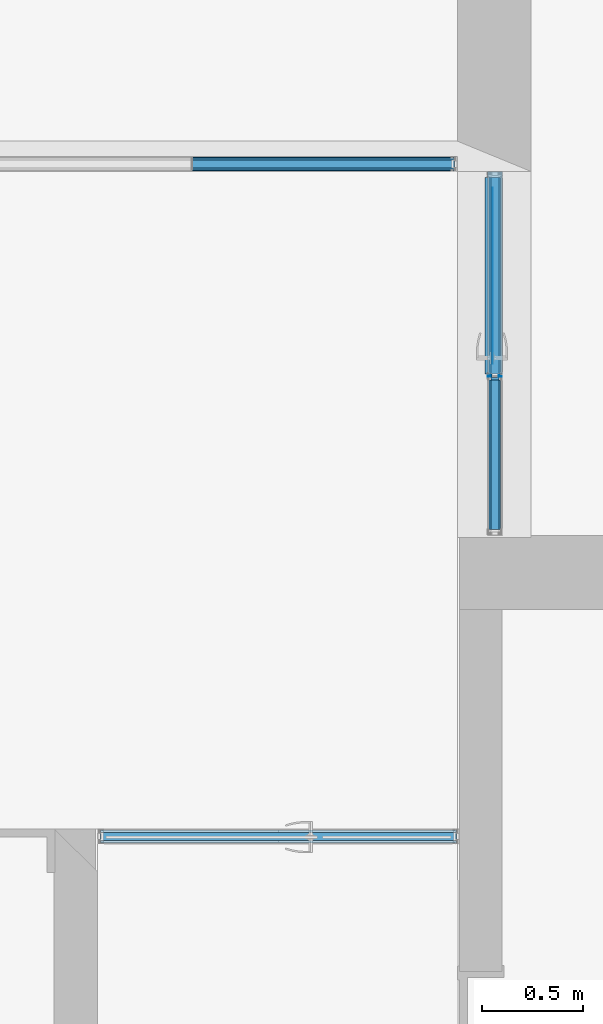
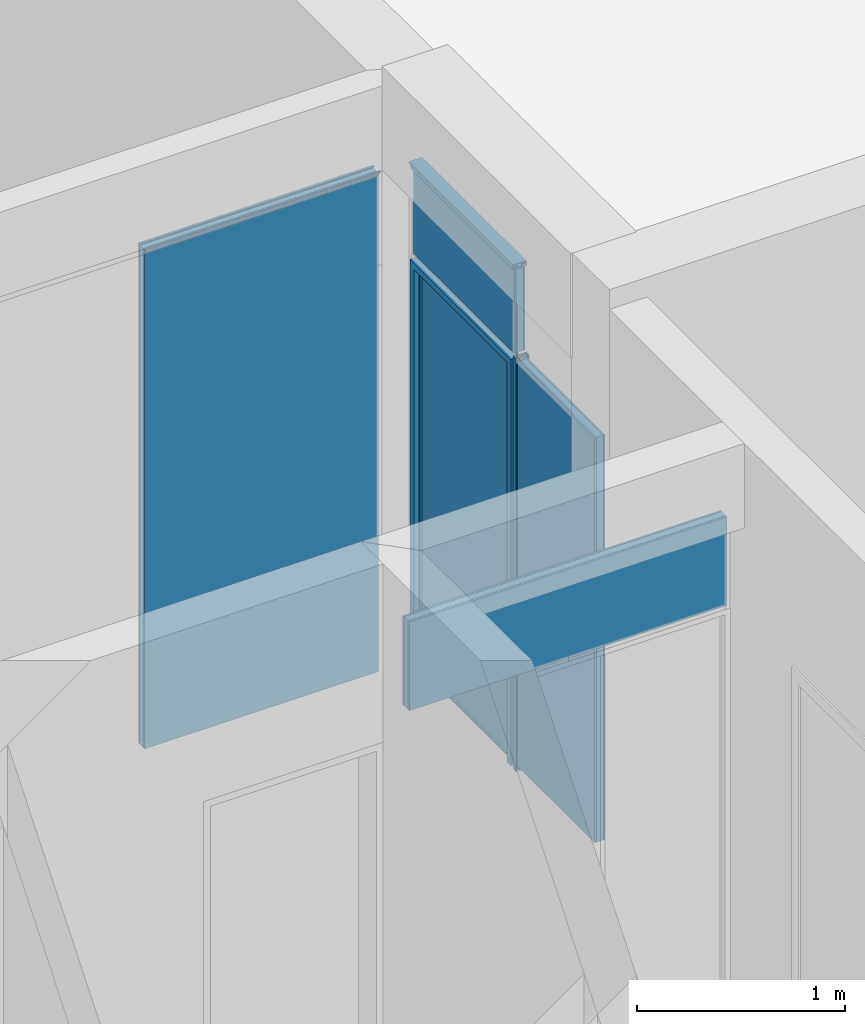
# One storey, part 61 of 89: 14 building element parts, 11 elements without a shape of their own.
"""IFC2X3 building model written with IfcOpenShell, lengths in millimetres."""

from ifc_helpers import new_model, entity, si_unit, converted_unit, derived_unit, money_unit, direction, frame, origin_with_axes, place, context, subcontext, project, spatial, open_shell, faceted_brep, surface_model, material, type_object, element, aggregate, save


model = new_model("IFC2X3")

# Units and contexts
model_context = context("Model", 3, precision=0.01, world=origin_with_axes(), true_north=direction((0.0, 1.0)))
body_context = subcontext(model_context, "Body", "Model", "MODEL_VIEW")
ifc_project = project(units=[si_unit("LENGTHUNIT", "METRE", prefix="MILLI"), si_unit("AREAUNIT", "SQUARE_METRE"), si_unit("VOLUMEUNIT", "CUBIC_METRE"), converted_unit("PLANEANGLEUNIT", "DEGREE", entity("IfcPlaneAngleMeasure", 0.0174532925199), si_unit("PLANEANGLEUNIT", "RADIAN"), dimensions=[0, 0, 0, 0, 0, 0, 0]), si_unit("SOLIDANGLEUNIT", "STERADIAN"), money_unit("EUR"), converted_unit("TIMEUNIT", "Year", entity("IfcTimeMeasure", 31556926.0), si_unit("TIMEUNIT", "SECOND"), dimensions=[0, 0, 1, 0, 0, 0, 0]), si_unit("MASSUNIT", "GRAM", prefix="KILO"), si_unit("THERMODYNAMICTEMPERATUREUNIT", "DEGREE_CELSIUS"), si_unit("LUMINOUSINTENSITYUNIT", "LUMEN"), si_unit("ENERGYUNIT", "JOULE", prefix="MEGA"), derived_unit("THERMALCONDUCTANCEUNIT", [(si_unit("POWERUNIT", "WATT"), 1), (si_unit("LENGTHUNIT", "METRE"), -1), (si_unit("THERMODYNAMICTEMPERATUREUNIT", "KELVIN"), -1)]), derived_unit("SPECIFICHEATCAPACITYUNIT", [(si_unit("ENERGYUNIT", "JOULE"), 1), (si_unit("MASSUNIT", "GRAM", prefix="KILO"), -1), (si_unit("THERMODYNAMICTEMPERATUREUNIT", "KELVIN"), -1)]), derived_unit("MASSDENSITYUNIT", [(si_unit("MASSUNIT", "GRAM", prefix="KILO"), 1), (si_unit("VOLUMEUNIT", "CUBIC_METRE"), -1)])], contexts=[model_context])

# Site, building, storey
site_placement = place(None, origin_with_axes())
site = spatial("IfcSite", under=ifc_project, at=site_placement, Name="Puškini 31, Narva", CompositionType="ELEMENT")
building_placement = place(site_placement, origin_with_axes())
building = spatial("IfcBuilding", under=site, at=building_placement, Name="Narva Riigigümnaasium", CompositionType="ELEMENT")
storey_placement = place(building_placement, frame((0.0, 0.0, -3300.0), z_axis=(0.0, 0.0, 1.0), x_axis=(1.0, 0.0, 0.0)))
storey = spatial("IfcBuildingStorey", under=building, at=storey_placement, Name="1.korrus -3.3", CompositionType="ELEMENT", Elevation=-3300.0)

# Curtain wall, door, building element parts, plates, members
curtain_wall_type = type_object("IfcCurtainWallType", Name="Curtain Wall Type", PredefinedType="NOTDEFINED")
curtain_wall_1_placement = place(storey_placement, frame((47675.0000001, 242632.20006, -3.78005973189e-05), z_axis=(0.0, 0.0, 1.0), x_axis=(1.0, 0.0, 0.0)))
curtain_wall_1 = element("IfcCurtainWall", 1, at=curtain_wall_1_placement, inside=storey, type_object=curtain_wall_type, Name="G-SKLF-10")
door_style = type_object("IfcDoorStyle", Name="955 x 2365 x 20", ConstructionType="NOTDEFINED", OperationType="NOTDEFINED", ParameterTakesPrecedence=False, Sizeable=False)
door_placement = place(curtain_wall_1_placement, frame((0.0, 921.799996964, 960.00001512), z_axis=(0.0, 0.0, 1.0), x_axis=(0.0, 1.0, 0.0)))
door = element("IfcDoor", 2, at=door_placement, type_object=door_style, Name="G-SKLF-10-U1", ObjectType="DOOR")
ifc_material_1 = material(Name="Alumiiniumprofiil")
building_element_part_1_placement = place(door_placement, origin_with_axes())
building_element_part_1 = element("IfcBuildingElementPart", 3, at=building_element_part_1_placement, material=ifc_material_1, Name="Alumiiniumprofiil", context=body_context, shape_type="Brep", body=[
    faceted_brep([(-594.00001575, -6.0, -940.000014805), (-594.00001575, -6.0, 1440.00002268), (-594.00001575, 8.0, 1440.00002268), (-594.00001575, 8.0, -940.000014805), (-548.00001575, -6.0, -940.000014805), (-548.00001575, -6.0, 1394.00002268), (-548.00001575, 8.0, 1394.00002268), (-548.00001575, 8.0, -940.000014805)], [[[0, 1, 2, 3]], [[0, 4, 5, 1]], [[1, 5, 6, 2]], [[3, 2, 6, 7]], [[4, 0, 3, 7]], [[5, 4, 7, 6]]]),
    faceted_brep([(375.999999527, -6.0, 1440.00002268), (329.999999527, -6.0, 1394.00002268), (329.999999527, 8.0, 1394.00002268), (375.999999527, 8.0, 1440.00002268), (-594.00001575, -6.0, 1440.00002268), (-548.00001575, -6.0, 1394.00002268), (-548.00001575, 8.0, 1394.00002268), (-594.00001575, 8.0, 1440.00002268)], [[[0, 1, 2, 3]], [[0, 4, 5, 1]], [[1, 5, 6, 2]], [[3, 2, 6, 7]], [[4, 0, 3, 7]], [[5, 4, 7, 6]]]),
    faceted_brep([(375.999999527, -6.0, -940.000014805), (329.999999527, -6.0, -940.000014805), (329.999999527, 8.0, -940.000014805), (375.999999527, 8.0, -940.000014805), (375.999999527, -6.0, 1440.00002268), (329.999999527, -6.0, 1394.00002268), (329.999999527, 8.0, 1394.00002268), (375.999999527, 8.0, 1440.00002268)], [[[0, 1, 2, 3]], [[0, 4, 5, 1]], [[1, 5, 6, 2]], [[3, 2, 6, 7]], [[4, 0, 3, 7]], [[5, 4, 7, 6]]]),
    faceted_brep([(-594.00001575, 8.0, -940.000014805), (-594.00001575, 8.0, 1440.00002268), (-594.00001575, 48.0, 1440.00002268), (-594.00001575, 48.0, -940.000014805), (-556.00001575, 8.0, -940.000014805), (-556.00001575, 8.0, 1402.00002268), (-556.00001575, 48.0, 1402.00002268), (-556.00001575, 48.0, -940.000014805)], [[[0, 1, 2, 3]], [[0, 4, 5, 1]], [[1, 5, 6, 2]], [[3, 2, 6, 7]], [[4, 0, 3, 7]], [[5, 4, 7, 6]]]),
    faceted_brep([(375.999999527, 8.0, 1440.00002268), (337.999999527, 8.0, 1402.00002268), (337.999999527, 48.0, 1402.00002268), (375.999999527, 48.0, 1440.00002268), (-594.00001575, 8.0, 1440.00002268), (-556.00001575, 8.0, 1402.00002268), (-556.00001575, 48.0, 1402.00002268), (-594.00001575, 48.0, 1440.00002268)], [[[0, 1, 2, 3]], [[0, 4, 5, 1]], [[1, 5, 6, 2]], [[3, 2, 6, 7]], [[4, 0, 3, 7]], [[5, 4, 7, 6]]]),
    faceted_brep([(375.999999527, 8.0, -940.000014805), (337.999999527, 8.0, -940.000014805), (337.999999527, 48.0, -940.000014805), (375.999999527, 48.0, -940.000014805), (375.999999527, 8.0, 1440.00002268), (337.999999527, 8.0, 1402.00002268), (337.999999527, 48.0, 1402.00002268), (375.999999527, 48.0, 1440.00002268)], [[[0, 1, 2, 3]], [[0, 4, 5, 1]], [[1, 5, 6, 2]], [[3, 2, 6, 7]], [[4, 0, 3, 7]], [[5, 4, 7, 6]]]),
    faceted_brep([(-594.00001575, -10.0, -940.000014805), (-594.00001575, -10.0, 1440.00002268), (-594.00001575, 10.0, 1440.00002268), (-594.00001575, 10.0, -940.000014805), (-578.999979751, -10.0, -940.000014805), (-578.999979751, -10.0, 1425.00002244), (-578.999979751, 10.0, 1425.00002244), (-578.999979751, 10.0, -940.000014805)], [[[0, 1, 2, 3]], [[0, 4, 5, 1]], [[1, 5, 6, 2]], [[3, 2, 6, 7]], [[4, 0, 3, 7]], [[5, 4, 7, 6]]]),
    faceted_brep([(-594.00001575, -10.0, 1440.00002268), (375.999999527, -10.0, 1440.00002268), (375.999999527, 10.0, 1440.00002268), (-594.00001575, 10.0, 1440.00002268), (-578.999979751, -10.0, 1425.00002244), (375.999999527, -10.0, 1425.00002244), (375.999999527, 10.0, 1425.00002244), (-578.999979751, 10.0, 1425.00002244)], [[[0, 1, 2, 3]], [[0, 4, 5, 1]], [[1, 5, 6, 2]], [[3, 2, 6, 7]], [[4, 0, 3, 7]], [[5, 4, 7, 6]]]),
    faceted_brep([(325.999999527, 8.0, -928.000014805), (325.999999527, 8.0, 1390.00002268), (325.999999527, 20.0, 1390.00002268), (325.999999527, 20.0, -928.000014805), (337.999999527, 8.0, -940.000014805), (337.999999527, 8.0, 1402.00002268), (337.999999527, 20.0, 1402.00002268), (337.999999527, 20.0, -940.000014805)], [[[0, 1, 2, 3]], [[0, 4, 5, 1]], [[1, 5, 6, 2]], [[3, 2, 6, 7]], [[4, 0, 3, 7]], [[5, 4, 7, 6]]]),
    faceted_brep([(-556.00001575, 8.0, -940.000014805), (-556.00001575, 8.0, 1402.00002268), (-556.00001575, 20.0, 1402.00002268), (-556.00001575, 20.0, -940.000014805), (-544.00001575, 8.0, -928.000014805), (-544.00001575, 8.0, 1390.00002268), (-544.00001575, 20.0, 1390.00002268), (-544.00001575, 20.0, -928.000014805)], [[[0, 1, 2, 3]], [[0, 4, 5, 1]], [[1, 5, 6, 2]], [[3, 2, 6, 7]], [[4, 0, 3, 7]], [[5, 4, 7, 6]]]),
    faceted_brep([(-556.00001575, 8.0, -940.000014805), (-544.00001575, 8.0, -928.000014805), (-544.00001575, 20.0, -928.000014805), (-556.00001575, 20.0, -940.000014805), (337.999999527, 8.0, -940.000014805), (325.999999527, 8.0, -928.000014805), (325.999999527, 20.0, -928.000014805), (337.999999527, 20.0, -940.000014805)], [[[0, 1, 2, 3]], [[0, 4, 5, 1]], [[1, 5, 6, 2]], [[3, 2, 6, 7]], [[4, 0, 3, 7]], [[5, 4, 7, 6]]]),
    faceted_brep([(337.999999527, 8.0, 1402.00002268), (325.999999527, 8.0, 1390.00002268), (325.999999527, 20.0, 1390.00002268), (337.999999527, 20.0, 1402.00002268), (-556.00001575, 8.0, 1402.00002268), (-544.00001575, 8.0, 1390.00002268), (-544.00001575, 20.0, 1390.00002268), (-556.00001575, 20.0, 1402.00002268)], [[[0, 1, 2, 3]], [[0, 4, 5, 1]], [[1, 5, 6, 2]], [[3, 2, 6, 7]], [[4, 0, 3, 7]], [[5, 4, 7, 6]]]),
])
ifc_material_2 = material(Name="VKR-05_Klaas")
building_element_part_2_placement = place(door_placement, origin_with_axes())
building_element_part_2 = element("IfcBuildingElementPart", 4, at=building_element_part_2_placement, material=ifc_material_2, Name="VKR-05_Klaas", context=body_context, shape_type="SurfaceModel", body=[
    surface_model("IfcShellBasedSurfaceModel", [(325.999999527, 10.0, -928.000014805), (325.999999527, 10.0, 1390.00002268), (-544.00001575, 10.0, 1390.00002268), (-544.00001575, 10.0, -928.000014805)], [open_shell([[[0, 1, 2, 3]]])]),
])
aggregate(door, [building_element_part_1, building_element_part_2])
plate_type_1 = type_object("IfcPlateType", Name="985 x 520 x 20", PredefinedType="CURTAIN_PANEL")
plate_1_placement = place(curtain_wall_1_placement, frame((0.0, 360.254540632, 2507.81820327), z_axis=(0.0, 0.0, 1.0), x_axis=(0.0, 1.0, 0.0)))
plate_1 = element("IfcPlate", 5, at=plate_1_placement, type_object=plate_type_1, Name="G-SKLF-10-klaas", ObjectType="CURTAIN_PANEL")
building_element_part_3_placement = place(plate_1_placement, origin_with_axes())
building_element_part_3 = element("IfcBuildingElementPart", 6, at=building_element_part_3_placement, material=ifc_material_2, Name="VKR-05_Klaas", context=body_context, shape_type="Brep", body=[
    faceted_brep([(-32.454552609, -29.0, 412.181763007), (937.54542951, -29.0, 412.181763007), (937.54542951, -20.0, 412.181763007), (-32.454552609, -20.0, 412.181763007), (-32.454552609, -29.0, -77.8181922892), (937.54542951, -29.0, -77.818138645), (937.54542951, -20.0, -77.818138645), (-32.454552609, -20.0, -77.8181922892)], [[[0, 1, 2, 3]], [[0, 4, 5, 1]], [[1, 5, 6, 2]], [[3, 2, 6, 7]], [[4, 0, 3, 7]], [[5, 4, 7, 6]]]),
    faceted_brep([(-32.454552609, 20.0, 412.181763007), (937.54542951, 20.0, 412.181763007), (937.54542951, 29.0, 412.181763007), (-32.454552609, 29.0, 412.181763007), (-32.454552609, 20.0, -77.8181922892), (937.54542951, 20.0, -77.818138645), (937.54542951, 29.0, -77.818138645), (-32.454552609, 29.0, -77.8181922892)], [[[0, 1, 2, 3]], [[0, 4, 5, 1]], [[1, 5, 6, 2]], [[3, 2, 6, 7]], [[4, 0, 3, 7]], [[5, 4, 7, 6]]]),
])
ifc_material_3 = material(Name="VKR-06_Õhkvahe")
building_element_part_4_placement = place(plate_1_placement, origin_with_axes())
building_element_part_4 = element("IfcBuildingElementPart", 7, at=building_element_part_4_placement, material=ifc_material_3, Name="VKR-06_Õhkvahe", context=body_context, shape_type="Brep", body=[
    faceted_brep([(-32.454552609, -20.0, 412.181763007), (937.54542951, -20.0, 412.181763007), (937.54542951, 20.0, 412.181763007), (-32.454552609, 20.0, 412.181763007), (-32.454552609, -20.0, -77.8181922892), (937.54542951, -20.0, -77.818138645), (937.54542951, 20.0, -77.818138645), (-32.454552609, 20.0, -77.8181922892)], [[[0, 1, 2, 3]], [[0, 4, 5, 1]], [[1, 5, 6, 2]], [[3, 2, 6, 7]], [[4, 0, 3, 7]], [[5, 4, 7, 6]]]),
])
aggregate(plate_1, [building_element_part_3, building_element_part_4])
plate_type_2 = type_object("IfcPlateType", Name="770 x 2400 x 20", PredefinedType="CURTAIN_PANEL")
plate_2_placement = place(curtain_wall_1_placement, frame((0.0, 53.9666644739, 1200.0000189), z_axis=(0.0, 0.0, 1.0), x_axis=(0.0, 1.0, 0.0)))
plate_2 = element("IfcPlate", 8, at=plate_2_placement, type_object=plate_type_2, Name="G-SKLF-10-klaas", ObjectType="CURTAIN_PANEL")
building_element_part_5_placement = place(plate_2_placement, origin_with_axes())
building_element_part_5 = element("IfcBuildingElementPart", 9, at=building_element_part_5_placement, material=ifc_material_2, Name="VKR-05_Klaas", context=body_context, shape_type="Brep", body=[
    faceted_brep([(-496.166643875, -29.0, 1200.0000189), (243.833296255, -29.0, 1200.0000189), (243.833296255, -20.0, 1200.0000189), (-496.166643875, -20.0, 1200.0000189), (-496.166643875, -29.0, -1169.99998266), (243.833332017, -29.0, -1169.99998266), (243.833332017, -20.0, -1169.99998266), (-496.166643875, -20.0, -1169.99998266)], [[[0, 1, 2, 3]], [[0, 4, 5, 1]], [[1, 5, 6, 2]], [[3, 2, 6, 7]], [[4, 0, 3, 7]], [[5, 4, 7, 6]]]),
    faceted_brep([(-496.166643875, 20.0, 1200.0000189), (243.833296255, 20.0, 1200.0000189), (243.833296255, 29.0, 1200.0000189), (-496.166643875, 29.0, 1200.0000189), (-496.166643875, 20.0, -1169.99998266), (243.833332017, 20.0, -1169.99998266), (243.833332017, 29.0, -1169.99998266), (-496.166643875, 29.0, -1169.99998266)], [[[0, 1, 2, 3]], [[0, 4, 5, 1]], [[1, 5, 6, 2]], [[3, 2, 6, 7]], [[4, 0, 3, 7]], [[5, 4, 7, 6]]]),
])
building_element_part_6_placement = place(plate_2_placement, origin_with_axes())
building_element_part_6 = element("IfcBuildingElementPart", 10, at=building_element_part_6_placement, material=ifc_material_3, Name="VKR-06_Õhkvahe", context=body_context, shape_type="Brep", body=[
    faceted_brep([(-496.166643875, -20.0, 1200.0000189), (243.833296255, -20.0, 1200.0000189), (243.833296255, 20.0, 1200.0000189), (-496.166643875, 20.0, 1200.0000189), (-496.166643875, -20.0, -1169.99998266), (243.833332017, -20.0, -1169.99998266), (243.833332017, 20.0, -1169.99998266), (-496.166643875, 20.0, -1169.99998266)], [[[0, 1, 2, 3]], [[0, 4, 5, 1]], [[1, 5, 6, 2]], [[3, 2, 6, 7]], [[4, 0, 3, 7]], [[5, 4, 7, 6]]]),
])
aggregate(plate_2, [building_element_part_5, building_element_part_6])
member_type_1 = type_object("IfcMemberType", Name="30 x -96", PredefinedType="MULLION")
member_1_placement = place(curtain_wall_1_placement, frame((0.0, 327.799996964, 0.0), z_axis=(0.0, 0.0, 1.0), x_axis=(0.0, 1.0, 0.0)))
member_1 = element("IfcMember", 11, at=member_1_placement, type_object=member_type_1, Name="G-SKLF-10-raam", ObjectType="MULLION")
ifc_material_4 = material(Name="Klaasvill")
building_element_part_7_placement = place(member_1_placement, origin_with_axes())
building_element_part_7 = element("IfcBuildingElementPart", 12, at=building_element_part_7_placement, material=ifc_material_4, Name="Klaasvill", context=body_context, shape_type="Brep", body=[
    faceted_brep([(-13.8499999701, 20.000000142, 0.0), (-7.49999990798, 20.000000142, 0.0), (-7.49999990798, 20.000000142, 2417.0000571), (-13.8499999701, 20.000000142, 2417.0000571), (-13.8499999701, 34.0161444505, 0.0), (-7.49999990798, 34.0161444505, 0.0), (-7.49999990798, 34.0161444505, 2417.0000571), (-13.8499999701, 34.0161444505, 2417.0000571)], [[[0, 1, 2, 3]], [[0, 4, 5, 1]], [[1, 5, 6, 2]], [[3, 2, 6, 7]], [[4, 0, 3, 7]], [[5, 4, 7, 6]]]),
    faceted_brep([(-24.987414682, 34.0161444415, 0.0), (-28.7655837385, 33.0385325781, 0.0), (-28.7655837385, 33.0385325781, 2417.0000571), (-24.987414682, 34.0161444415, 2417.0000571), (-24.7344548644, 33.0385325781, 0.0), (-25.004489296, 32.0307503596, 0.0), (-25.742237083, 31.2930025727, 0.0), (-26.7500193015, 31.0229681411, 0.0), (-27.75780152, 31.2930025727, 0.0), (-28.4955493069, 32.0307503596, 0.0), (-28.4955493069, 32.0307503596, 2417.0000571), (-27.75780152, 31.2930025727, 2417.0000571), (-26.7500193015, 31.0229681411, 2417.0000571), (-25.742237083, 31.2930025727, 2417.0000571), (-25.004489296, 32.0307503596, 2417.0000571), (-24.7344548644, 33.0385325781, 2417.0000571)], [[[0, 1, 2, 3]], [[0, 4, 5, 6, 7, 8, 9, 1]], [[1, 9, 10, 2]], [[3, 2, 10, 11, 12, 13, 14, 15]], [[4, 0, 3, 15]], [[5, 4, 15, 14]], [[6, 5, 14, 13]], [[7, 6, 13, 12]], [[8, 7, 12, 11]], [[9, 8, 11, 10]]]),
    faceted_brep([(-13.8499999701, -19.9999997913, 0.0), (-13.8499999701, -34.0161445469, 0.0), (-13.8499999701, -34.0161445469, 2417.0000571), (-13.8499999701, -19.9999997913, 2417.0000571), (-7.49999990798, -19.9999997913, 0.0), (-7.49999990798, -34.0161445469, 0.0), (-7.49999990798, -34.0161445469, 2417.0000571), (-7.49999990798, -19.9999997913, 2417.0000571)], [[[0, 1, 2, 3]], [[0, 4, 5, 1]], [[1, 5, 6, 2]], [[3, 2, 6, 7]], [[4, 0, 3, 7]], [[5, 4, 7, 6]]]),
    faceted_brep([(-24.987414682, -34.0161444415, 0.0), (-25.004489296, -32.0307503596, 0.0), (-25.004489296, -32.0307503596, 2417.0000571), (-24.987414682, -34.0161444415, 2417.0000571), (-28.5126239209, -34.0161444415, 0.0), (-28.7655837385, -33.0385325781, 0.0), (-28.4955493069, -32.0307503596, 0.0), (-27.75780152, -31.2930025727, 0.0), (-26.7500193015, -31.0229681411, 0.0), (-25.742237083, -31.2930025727, 0.0), (-25.742237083, -31.2930025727, 2417.0000571), (-26.7500193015, -31.0229681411, 2417.0000571), (-27.75780152, -31.2930025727, 2417.0000571), (-28.4955493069, -32.0307503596, 2417.0000571), (-28.7655837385, -33.0385325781, 2417.0000571), (-28.5126239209, -34.0161444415, 2417.0000571)], [[[0, 1, 2, 3]], [[0, 4, 5, 6, 7, 8, 9, 1]], [[1, 9, 10, 2]], [[3, 2, 10, 11, 12, 13, 14, 15]], [[4, 0, 3, 15]], [[5, 4, 15, 14]], [[6, 5, 14, 13]], [[7, 6, 13, 12]], [[8, 7, 12, 11]], [[9, 8, 11, 10]]]),
])
ifc_material_5 = material(Name="Teras RAL7012")
building_element_part_8_placement = place(member_1_placement, origin_with_axes())
building_element_part_8 = element("IfcBuildingElementPart", 13, at=building_element_part_8_placement, material=ifc_material_5, Name="Teras RAL7012", context=body_context, shape_type="Brep", body=[
    faceted_brep([(-29.6000001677, 17.0000000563, 0.0), (-29.6000001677, -17.0000000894, 0.0), (-29.6000001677, -17.0000000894, 2417.0000571), (-29.6000001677, 17.0000000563, 2417.0000571), (3.28335792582e-07, 17.0000000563, 0.0), (3.28335792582e-07, -17.0000000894, 0.0), (-1.99999958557, -15.0000001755, 0.0), (-1.99999958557, 15.0000001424, 0.0), (-18.8000001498, 15.0000001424, 0.0), (-18.8000001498, -15.0000001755, 0.0), (3.28335792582e-07, -17.0000000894, 2417.0000571), (3.28335792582e-07, 17.0000000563, 2417.0000571), (-1.99999958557, -15.0000001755, 2417.0000571), (-18.8000001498, -15.0000001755, 2417.0000571), (-18.8000001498, 15.0000001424, 2417.0000571), (-1.99999958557, 15.0000001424, 2417.0000571)], [[[0, 1, 2, 3]], [[0, 4, 5, 1], [6, 7, 8, 9]], [[1, 5, 10, 2]], [[3, 2, 10, 11], [12, 13, 14, 15]], [[4, 0, 3, 11]], [[5, 4, 11, 10]], [[7, 6, 12, 15]], [[8, 7, 15, 14]], [[9, 8, 14, 13]], [[6, 9, 13, 12]]]),
    faceted_brep([(0.0, 17.0, 0.0), (0.0, 37.0, 0.0), (0.0, 37.0, 2417.0000571), (0.0, 17.0, 2417.0000571), (-29.6000001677, 17.0000000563, 0.0), (-30.0000193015, 17.0, 0.0), (-30.0000193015, 20.0, 0.0), (-13.8499999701, 20.000000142, 0.0), (-7.49999999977, 20.0, 0.0), (-7.49999999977, 34.0161444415, 0.0), (-13.8499999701, 34.0161444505, 0.0), (-24.987414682, 34.0161444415, 0.0), (-28.5126239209, 34.0161444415, 0.0), (-30.0000193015, 34.0161444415, 0.0), (-30.0000193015, 37.0, 0.0), (-30.0000193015, 37.0, 2417.0000571), (-30.0000193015, 34.0161444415, 2417.0000571), (-28.5126239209, 34.0161444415, 2417.0000571), (-24.987414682, 34.0161444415, 2417.0000571), (-13.8499999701, 34.0161444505, 2417.0000571), (-7.49999999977, 34.0161444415, 2417.0000571), (-7.49999999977, 20.0, 2417.0000571), (-13.8499999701, 20.000000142, 2417.0000571), (-30.0000193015, 20.0, 2417.0000571), (-30.0000193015, 17.0, 2417.0000571), (-29.6000001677, 17.0000000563, 2417.0000571)], [[[0, 1, 2, 3]], [[0, 4, 5, 6, 7, 8, 9, 10, 11, 12, 13, 14, 1]], [[1, 14, 15, 2]], [[3, 2, 15, 16, 17, 18, 19, 20, 21, 22, 23, 24, 25]], [[4, 0, 3, 25]], [[5, 4, 25, 24]], [[6, 5, 24, 23]], [[7, 6, 23, 22]], [[8, 7, 22, 21]], [[9, 8, 21, 20]], [[10, 9, 20, 19]], [[11, 10, 19, 18]], [[12, 11, 18, 17]], [[13, 12, 17, 16]], [[14, 13, 16, 15]]]),
    faceted_brep([(0.0, -17.0, 0.0), (-29.6000001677, -17.0000000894, 0.0), (-29.6000001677, -17.0000000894, 2417.0000571), (0.0, -17.0, 2417.0000571), (0.0, -37.0, 0.0), (-30.0000193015, -37.0, 0.0), (-30.0000193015, -34.0161444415, 0.0), (-28.5126239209, -34.0161444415, 0.0), (-24.987414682, -34.0161444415, 0.0), (-13.8499999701, -34.0161445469, 0.0), (-7.49999999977, -34.0161444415, 0.0), (-7.49999999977, -20.0, 0.0), (-13.8499999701, -19.9999997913, 0.0), (-30.0000193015, -20.0, 0.0), (-30.0000193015, -17.0, 0.0), (-30.0000193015, -17.0, 2417.0000571), (-30.0000193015, -20.0, 2417.0000571), (-13.8499999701, -19.9999997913, 2417.0000571), (-7.49999999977, -20.0, 2417.0000571), (-7.49999999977, -34.0161444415, 2417.0000571), (-13.8499999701, -34.0161445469, 2417.0000571), (-24.987414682, -34.0161444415, 2417.0000571), (-28.5126239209, -34.0161444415, 2417.0000571), (-30.0000193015, -34.0161444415, 2417.0000571), (-30.0000193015, -37.0, 2417.0000571), (0.0, -37.0, 2417.0000571)], [[[0, 1, 2, 3]], [[0, 4, 5, 6, 7, 8, 9, 10, 11, 12, 13, 14, 1]], [[1, 14, 15, 2]], [[3, 2, 15, 16, 17, 18, 19, 20, 21, 22, 23, 24, 25]], [[4, 0, 3, 25]], [[5, 4, 25, 24]], [[6, 5, 24, 23]], [[7, 6, 23, 22]], [[8, 7, 22, 21]], [[9, 8, 21, 20]], [[10, 9, 20, 19]], [[11, 10, 19, 18]], [[12, 11, 18, 17]], [[13, 12, 17, 16]], [[14, 13, 16, 15]]]),
])
aggregate(member_1, [building_element_part_7, building_element_part_8])
member_type_2 = type_object("IfcMemberType", Name="30 x 64", PredefinedType="MULLION")
member_2_placement = place(curtain_wall_1_placement, frame((0.0, 327.799996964, 2949.99999283), z_axis=(0.0, 1.0, 0.0), x_axis=(0.0, 0.0, -1.0)))
member_2 = element("IfcMember", 14, at=member_2_placement, type_object=member_type_2, Name="G-SKLF-10-raam", ObjectType="MULLION")
aggregate(curtain_wall_1, [door, member_1, member_2, plate_1, plate_2])
building_element_part_9_placement = place(member_2_placement, origin_with_axes())
building_element_part_9 = element("IfcBuildingElementPart", 15, at=building_element_part_9_placement, material=ifc_material_5, Name="Teras RAL7012", context=body_context, shape_type="Brep", body=[
    faceted_brep([(0.0, -17.0000000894, 0.0), (29.5999996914, -17.0000000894, 0.0), (29.5999996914, -17.0000000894, 970.400000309), (0.0, -17.0000000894, 1000.0), (0.0, 17.0000000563, 0.0), (29.5999996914, 17.0000000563, 0.0), (1.9999999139, 15.0000001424, 0.0), (1.9999999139, -15.0000001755, 0.0), (18.7999996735, -15.0000001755, 0.0), (18.7999996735, 15.0000001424, 0.0), (29.5999996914, 17.0000000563, 970.400000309), (0.0, 17.0000000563, 1000.0), (1.9999999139, 15.0000001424, 998.000000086), (18.7999996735, 15.0000001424, 981.200000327), (18.7999996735, -15.0000001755, 981.200000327), (1.9999999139, -15.0000001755, 998.000000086)], [[[0, 1, 2, 3]], [[0, 4, 5, 1], [6, 7, 8, 9]], [[1, 5, 10, 2]], [[3, 2, 10, 11], [12, 13, 14, 15]], [[4, 0, 3, 11]], [[5, 4, 11, 10]], [[7, 6, 12, 15]], [[8, 7, 15, 14]], [[9, 8, 14, 13]], [[6, 9, 13, 12]]]),
    faceted_brep([(0.0, 17.0, 0.0), (29.5999996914, 17.0000000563, 0.0), (29.5999996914, 17.0000000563, 970.400000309), (0.0, 17.0, 1000.0), (0.0, 37.0, 0.0), (30.0000193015, 37.0, 0.0), (30.0000193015, 34.0161444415, 0.0), (28.5126239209, 34.0161444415, 0.0), (24.987414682, 34.0161444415, 0.0), (13.8499999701, 34.0161444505, 0.0), (7.49999999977, 34.0161444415, 0.0), (7.49999999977, 20.0, 0.0), (13.8499999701, 20.000000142, 0.0), (30.0000193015, 20.0, 0.0), (30.0000193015, 17.0, 0.0), (30.0000193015, 17.0, 969.999980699), (30.0000193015, 20.0, 969.999980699), (13.8499999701, 20.000000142, 986.15000003), (7.49999999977, 20.0, 992.5), (7.49999999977, 34.0161444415, 992.5), (13.8499999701, 34.0161444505, 986.15000003), (24.987414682, 34.0161444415, 975.012585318), (28.5126239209, 34.0161444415, 971.487376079), (30.0000193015, 34.0161444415, 969.999980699), (30.0000193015, 37.0, 969.999980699), (0.0, 37.0, 1000.0)], [[[0, 1, 2, 3]], [[0, 4, 5, 6, 7, 8, 9, 10, 11, 12, 13, 14, 1]], [[1, 14, 15, 2]], [[3, 2, 15, 16, 17, 18, 19, 20, 21, 22, 23, 24, 25]], [[4, 0, 3, 25]], [[5, 4, 25, 24]], [[6, 5, 24, 23]], [[7, 6, 23, 22]], [[8, 7, 22, 21]], [[9, 8, 21, 20]], [[10, 9, 20, 19]], [[11, 10, 19, 18]], [[12, 11, 18, 17]], [[13, 12, 17, 16]], [[14, 13, 16, 15]]]),
    faceted_brep([(0.0, -17.0, 0.0), (0.0, -37.0, 0.0), (0.0, -37.0, 1000.0), (0.0, -17.0, 1000.0), (29.5999996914, -17.0000000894, 0.0), (30.0000193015, -17.0, 0.0), (30.0000193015, -20.0, 0.0), (13.8499999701, -19.9999997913, 0.0), (7.49999999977, -20.0, 0.0), (7.49999999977, -34.0161444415, 0.0), (13.8499999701, -34.0161445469, 0.0), (24.987414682, -34.0161444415, 0.0), (28.5126239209, -34.0161444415, 0.0), (30.0000193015, -34.0161444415, 0.0), (30.0000193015, -37.0, 0.0), (30.0000193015, -37.0, 969.999980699), (30.0000193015, -34.0161444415, 969.999980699), (28.5126239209, -34.0161444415, 971.487376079), (24.987414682, -34.0161444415, 975.012585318), (13.8499999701, -34.0161445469, 986.15000003), (7.49999999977, -34.0161444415, 992.5), (7.49999999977, -20.0, 992.5), (13.8499999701, -19.9999997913, 986.15000003), (30.0000193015, -20.0, 969.999980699), (30.0000193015, -17.0, 969.999980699), (29.5999996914, -17.0000000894, 970.400000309)], [[[0, 1, 2, 3]], [[0, 4, 5, 6, 7, 8, 9, 10, 11, 12, 13, 14, 1]], [[1, 14, 15, 2]], [[3, 2, 15, 16, 17, 18, 19, 20, 21, 22, 23, 24, 25]], [[4, 0, 3, 25]], [[5, 4, 25, 24]], [[6, 5, 24, 23]], [[7, 6, 23, 22]], [[8, 7, 22, 21]], [[9, 8, 21, 20]], [[10, 9, 20, 19]], [[11, 10, 19, 18]], [[12, 11, 18, 17]], [[13, 12, 17, 16]], [[14, 13, 16, 15]]]),
])
aggregate(member_2, [building_element_part_9])

# Curtain wall, plate, building element parts, member
curtain_wall_2_placement = place(storey_placement, frame((40014.000008, 243997.000057, -9.155864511e-06), z_axis=(0.0, 0.0, 1.0), x_axis=(1.0, 0.0, 0.0)))
curtain_wall_2 = element("IfcCurtainWall", 16, at=curtain_wall_2_placement, inside=storey, type_object=curtain_wall_type, Name="G-SKLF-09")
plate_type_3 = type_object("IfcPlateType", Name="Siseklaasfassaad - Klaas 1296 x 535 x 10", PredefinedType="CURTAIN_PANEL")
plate_3_placement = place(curtain_wall_2_placement, frame((6820.00002045, 0.0, 1783.33333811), z_axis=(0.0, 0.0, 1.0), x_axis=(-1.0, 0.0, 0.0)))
plate_3 = element("IfcPlate", 17, at=plate_3_placement, type_object=plate_type_3, Name="G-SKLF-09-klaas", ObjectType="CURTAIN_PANEL")
building_element_part_10_placement = place(plate_3_placement, origin_with_axes())
building_element_part_10 = element("IfcBuildingElementPart", 18, at=building_element_part_10_placement, material=ifc_material_2, Name="VKR-05_Klaas", context=body_context, shape_type="Brep", body=[
    faceted_brep([(-641.000007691, 29.0, 1151.66667721), (-641.000007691, 20.0, 1151.66667721), (654.50003345, 20.0, 1151.66667721), (654.50003345, 29.0, 1151.66667721), (-641.000007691, 29.0, -1768.33334626), (-641.000007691, 20.0, -1768.33334626), (654.50003345, 20.0, -1768.33334626), (654.50003345, 29.0, -1768.33334626)], [[[0, 1, 2, 3]], [[4, 5, 1, 0]], [[1, 5, 6, 2]], [[3, 2, 6, 7]], [[0, 3, 7, 4]], [[7, 6, 5, 4]]]),
    faceted_brep([(-641.000007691, -20.0, 1151.66667721), (-641.000007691, -29.0, 1151.66667721), (654.50003345, -29.0, 1151.66667721), (654.50003345, -20.0, 1151.66667721), (-641.000007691, -20.0, -1768.33334626), (-641.000007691, -29.0, -1768.33334626), (654.50003345, -29.0, -1768.33334626), (654.50003345, -20.0, -1768.33334626)], [[[0, 1, 2, 3]], [[4, 5, 1, 0]], [[1, 5, 6, 2]], [[3, 2, 6, 7]], [[0, 3, 7, 4]], [[7, 6, 5, 4]]]),
])
building_element_part_11_placement = place(plate_3_placement, origin_with_axes())
building_element_part_11 = element("IfcBuildingElementPart", 19, at=building_element_part_11_placement, material=ifc_material_3, Name="VKR-06_Õhkvahe", context=body_context, shape_type="Brep", body=[
    faceted_brep([(-641.000007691, 20.0, 1151.66667721), (-641.000007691, -20.0, 1151.66667721), (654.50003345, -20.0, 1151.66667721), (654.50003345, 20.0, 1151.66667721), (-641.000007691, 20.0, -1768.33334626), (-641.000007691, -20.0, -1768.33334626), (654.50003345, -20.0, -1768.33334626), (654.50003345, 20.0, -1768.33334626)], [[[0, 1, 2, 3]], [[4, 5, 1, 0]], [[1, 5, 6, 2]], [[3, 2, 6, 7]], [[0, 3, 7, 4]], [[7, 6, 5, 4]]]),
])
aggregate(plate_3, [building_element_part_10, building_element_part_11])
member_type_3 = type_object("IfcMemberType", Name="30 x -83", PredefinedType="MULLION")
member_3_placement = place(curtain_wall_2_placement, frame((6163.99999221, 0.0, 2950.00000716), z_axis=(1.0, 0.0, 0.0), x_axis=(0.0, 0.0, 1.0)))
member_3 = element("IfcMember", 20, at=member_3_placement, type_object=member_type_3, Name="G-SKLF-47-raam", ObjectType="MULLION")
aggregate(curtain_wall_2, [member_3, plate_3])
building_element_part_12_placement = place(member_3_placement, origin_with_axes())
building_element_part_12 = element("IfcBuildingElementPart", 21, at=building_element_part_12_placement, material=ifc_material_4, Name="Klaasvill", context=body_context, shape_type="Brep", body=[
    faceted_brep([(-7.49999990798, -20.000000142, 0.0), (-13.8499999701, -20.000000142, 0.0), (-13.8499999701, -20.000000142, 1298.15005651), (-7.49999990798, -20.000000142, 1304.50005657), (-7.49999990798, -34.0161444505, 0.0), (-13.8499999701, -34.0161444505, 0.0), (-13.8499999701, -34.0161444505, 1298.15005651), (-7.49999990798, -34.0161444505, 1304.50005657)], [[[0, 1, 2, 3]], [[0, 4, 5, 1]], [[1, 5, 6, 2]], [[3, 2, 6, 7]], [[4, 0, 3, 7]], [[5, 4, 7, 6]]]),
    faceted_brep([(-24.987414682, -34.0161444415, 0.0), (-25.004489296, -32.0307503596, 0.0), (-25.004489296, -32.0307503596, 1286.99556718), (-24.987414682, -34.0161444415, 1287.0126418), (-28.5126239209, -34.0161444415, 0.0), (-28.7655837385, -33.0385325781, 0.0), (-28.4955493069, -32.0307503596, 0.0), (-27.75780152, -31.2930025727, 0.0), (-26.7500193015, -31.0229681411, 0.0), (-25.742237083, -31.2930025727, 0.0), (-25.742237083, -31.2930025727, 1286.25781939), (-26.7500193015, -31.0229681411, 1285.25003718), (-27.75780152, -31.2930025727, 1284.24225496), (-28.4955493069, -32.0307503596, 1283.50450717), (-28.7655837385, -33.0385325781, 1283.23447274), (-28.5126239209, -34.0161444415, 1283.48743256)], [[[0, 1, 2, 3]], [[0, 4, 5, 6, 7, 8, 9, 1]], [[1, 9, 10, 2]], [[3, 2, 10, 11, 12, 13, 14, 15]], [[4, 0, 3, 15]], [[5, 4, 15, 14]], [[6, 5, 14, 13]], [[7, 6, 13, 12]], [[8, 7, 12, 11]], [[9, 8, 11, 10]]]),
    faceted_brep([(-7.49999990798, 19.9999997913, 0.0), (-7.49999990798, 34.0161445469, 0.0), (-7.49999990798, 34.0161445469, 1304.50005657), (-7.49999990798, 19.9999997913, 1304.50005657), (-13.8499999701, 19.9999997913, 0.0), (-13.8499999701, 34.0161445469, 0.0), (-13.8499999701, 34.0161445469, 1298.15005651), (-13.8499999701, 19.9999997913, 1298.15005651)], [[[0, 1, 2, 3]], [[0, 4, 5, 1]], [[1, 5, 6, 2]], [[3, 2, 6, 7]], [[4, 0, 3, 7]], [[5, 4, 7, 6]]]),
    faceted_brep([(-25.004489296, 32.0307503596, 0.0), (-24.987414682, 34.0161444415, 0.0), (-24.987414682, 34.0161444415, 1287.0126418), (-25.004489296, 32.0307503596, 1286.99556718), (-25.742237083, 31.2930025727, 0.0), (-26.7500193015, 31.0229681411, 0.0), (-27.75780152, 31.2930025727, 0.0), (-28.4955493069, 32.0307503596, 0.0), (-28.7655837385, 33.0385325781, 0.0), (-28.5126239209, 34.0161444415, 0.0), (-28.5126239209, 34.0161444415, 1283.48743256), (-28.7655837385, 33.0385325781, 1283.23447274), (-28.4955493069, 32.0307503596, 1283.50450717), (-27.75780152, 31.2930025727, 1284.24225496), (-26.7500193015, 31.0229681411, 1285.25003718), (-25.742237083, 31.2930025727, 1286.25781939)], [[[0, 1, 2, 3]], [[0, 4, 5, 6, 7, 8, 9, 1]], [[1, 9, 10, 2]], [[3, 2, 10, 11, 12, 13, 14, 15]], [[4, 0, 3, 15]], [[5, 4, 15, 14]], [[6, 5, 14, 13]], [[7, 6, 13, 12]], [[8, 7, 12, 11]], [[9, 8, 11, 10]]]),
])
aggregate(member_3, [building_element_part_12])

# Curtain wall, plate, building element parts
curtain_wall_3_placement = place(storey_placement, frame((46605.0000001, 240678.000001, 0.0), z_axis=(0.0, 0.0, 1.0), x_axis=(1.0, 0.0, 0.0)))
curtain_wall_3 = element("IfcCurtainWall", 22, at=curtain_wall_3_placement, inside=storey, type_object=curtain_wall_type, Name="G-SKLF-57")
plate_type_4 = type_object("IfcPlateType", Name="Siseklaasfassaad - Klaas-Doubleline30 880 x 520 x 17", PredefinedType="CURTAIN_PANEL")
plate_4_placement = place(curtain_wall_3_placement, frame((0.0, 0.0, 2675.0), z_axis=(0.0, 0.0, 1.0), x_axis=(1.0, 0.0, 0.0)))
plate_4 = element("IfcPlate", 23, at=plate_4_placement, type_object=plate_type_4, Name="Panel-Siseklaasf-021", ObjectType="CURTAIN_PANEL")
aggregate(curtain_wall_3, [plate_4])
building_element_part_13_placement = place(plate_4_placement, origin_with_axes())
building_element_part_13 = element("IfcBuildingElementPart", 24, at=building_element_part_13_placement, material=ifc_material_2, Name="VKR-05_Klaas", context=body_context, shape_type="Brep", body=[
    faceted_brep([(-879.999979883, -37.0, 259.999997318), (879.999979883, -37.0, 259.999997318), (879.999979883, -25.0, 259.999997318), (-879.999979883, -25.0, 259.999997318), (-879.999979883, -37.0, -259.999979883), (879.999979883, -37.0, -259.999979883), (879.999979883, -25.0, -259.999979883), (-879.999979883, -25.0, -259.999979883)], [[[0, 1, 2, 3]], [[0, 4, 5, 1]], [[1, 5, 6, 2]], [[3, 2, 6, 7]], [[4, 0, 3, 7]], [[5, 4, 7, 6]]]),
    faceted_brep([(-879.999979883, 15.0, 259.999997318), (879.999979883, 15.0, 259.999997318), (879.999979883, 27.0, 259.999997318), (-879.999979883, 27.0, 259.999997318), (-879.999979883, 15.0, -259.999979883), (879.999979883, 15.0, -259.999979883), (879.999979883, 27.0, -259.999979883), (-879.999979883, 27.0, -259.999979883)], [[[0, 1, 2, 3]], [[0, 4, 5, 1]], [[1, 5, 6, 2]], [[3, 2, 6, 7]], [[4, 0, 3, 7]], [[5, 4, 7, 6]]]),
])
ifc_material_6 = material(Name="Õhkvahe")
building_element_part_14_placement = place(plate_4_placement, origin_with_axes())
building_element_part_14 = element("IfcBuildingElementPart", 25, at=building_element_part_14_placement, material=ifc_material_6, Name="Õhkvahe", context=body_context, shape_type="Brep", body=[
    faceted_brep([(-879.999979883, -25.0, 259.999997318), (879.999979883, -25.0, 259.999997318), (879.999979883, 15.0, 259.999997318), (-879.999979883, 15.0, 259.999997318), (-879.999979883, -25.0, -259.999979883), (879.999979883, -25.0, -259.999979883), (879.999979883, 15.0, -259.999979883), (-879.999979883, 15.0, -259.999979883)], [[[0, 1, 2, 3]], [[0, 4, 5, 1]], [[1, 5, 6, 2]], [[3, 2, 6, 7]], [[4, 0, 3, 7]], [[5, 4, 7, 6]]]),
])
aggregate(plate_4, [building_element_part_13, building_element_part_14])

save(model, "model.ifc")
